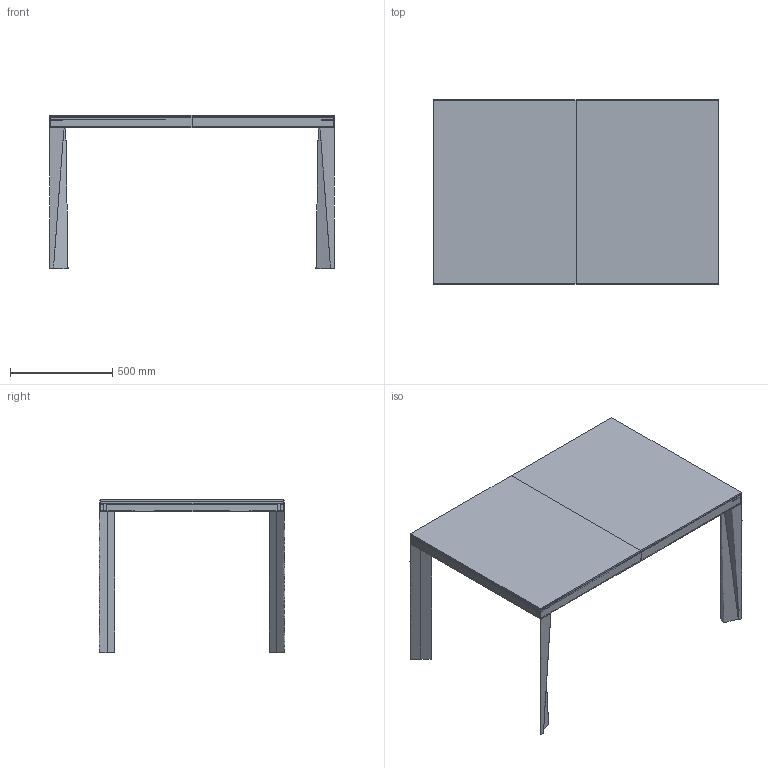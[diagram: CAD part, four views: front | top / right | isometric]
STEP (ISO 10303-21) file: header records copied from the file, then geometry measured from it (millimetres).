
FILE_DESCRIPTION(/* description */ (''),/* implementation_level */ '2;1');
FILE_NAME(/* name */ '10178 - Iceberg 140x90',/* time_stamp */ '2010-11-03T14:48:50+01:00',/* author */ (''),/* organization */ (''),/* preprocessor_version */ 'ST-DEVELOPER v10',/* originating_system */ '',/* authorisation */ '');
FILE_SCHEMA (('CONFIG_CONTROL_DESIGN'));
Length unit declared in the file: centimetre
Products named in the file (1): 1
Bounding box: 1391 x 906 x 750.51 mm (x, y, z)
Volume: 24456509.4 mm3; surface area: 5803507.8 mm2
Topology: 12 solids, 12 shells, 182 faces, 434 edges, 272 vertices
Faces by surface type: plane 162, bspline 20
Entity records: 5808 total; most frequent: CARTESIAN_POINT 2678, ORIENTED_EDGE 868, EDGE_CURVE 434, B_SPLINE_CURVE_WITH_KNOTS 402, VERTEX_POINT 272, ADVANCED_FACE 182, FACE_OUTER_BOUND 182, EDGE_LOOP 182
